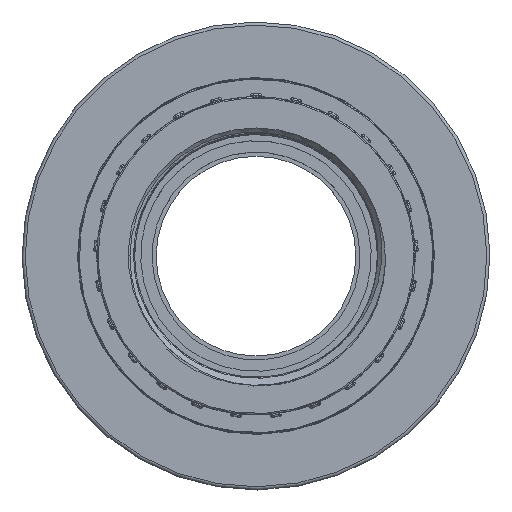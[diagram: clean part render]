
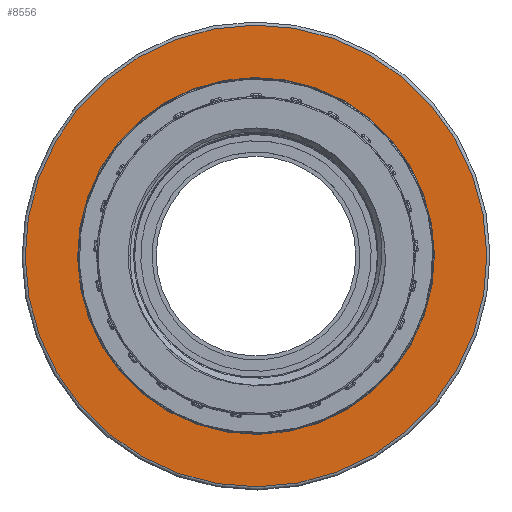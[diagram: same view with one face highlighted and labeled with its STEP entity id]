
A CAD part, top view. The second image highlights one B-rep face of the part: STEP entity #8556.
In plain terms, the highlighted planar face has unit normal (0, 0, 1).
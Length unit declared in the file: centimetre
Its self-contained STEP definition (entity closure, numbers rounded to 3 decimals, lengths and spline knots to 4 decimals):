
#281=FACE_BOUND('',#1343,.T.);
#860=FACE_OUTER_BOUND('',#1342,.T.);
#1342=EDGE_LOOP('',(#6702));
#1343=EDGE_LOOP('',(#6703));
#1847=CIRCLE('',#9288,3.7);
#1849=CIRCLE('',#9291,2.86);
#3600=VERTEX_POINT('',#19401);
#3602=VERTEX_POINT('',#19406);
#4691=EDGE_CURVE('',#3600,#3600,#1847,.T.);
#4693=EDGE_CURVE('',#3602,#3602,#1849,.T.);
#6702=ORIENTED_EDGE('',*,*,#4691,.F.);
#6703=ORIENTED_EDGE('',*,*,#4693,.T.);
#7747=PLANE('',#9290);
#8556=ADVANCED_FACE('',(#860,#281),#7747,.T.);
#9288=AXIS2_PLACEMENT_3D('',#19402,#11104,#11105);
#9290=AXIS2_PLACEMENT_3D('',#19405,#11108,#11109);
#9291=AXIS2_PLACEMENT_3D('',#19407,#11110,#11111);
#11104=DIRECTION('center_axis',(0.,0.,
-1.));
#11105=DIRECTION('ref_axis',(0.87,-0.493,0.));
#11108=DIRECTION('center_axis',(0.,0.,
1.));
#11109=DIRECTION('ref_axis',(-0.493,-0.87,0.));
#11110=DIRECTION('center_axis',(0.,0.,
-1.));
#11111=DIRECTION('ref_axis',(0.87,-0.493,0.));
#19401=CARTESIAN_POINT('',(-3.2181,1.8259,1.55));
#19402=CARTESIAN_POINT('Origin',(0.,0.,
1.55));
#19405=CARTESIAN_POINT('Origin',(-3.2616,1.8505,1.55));
#19406=CARTESIAN_POINT('',(-2.4875,1.4113,1.55));
#19407=CARTESIAN_POINT('Origin',(0.,0.,
1.55));
